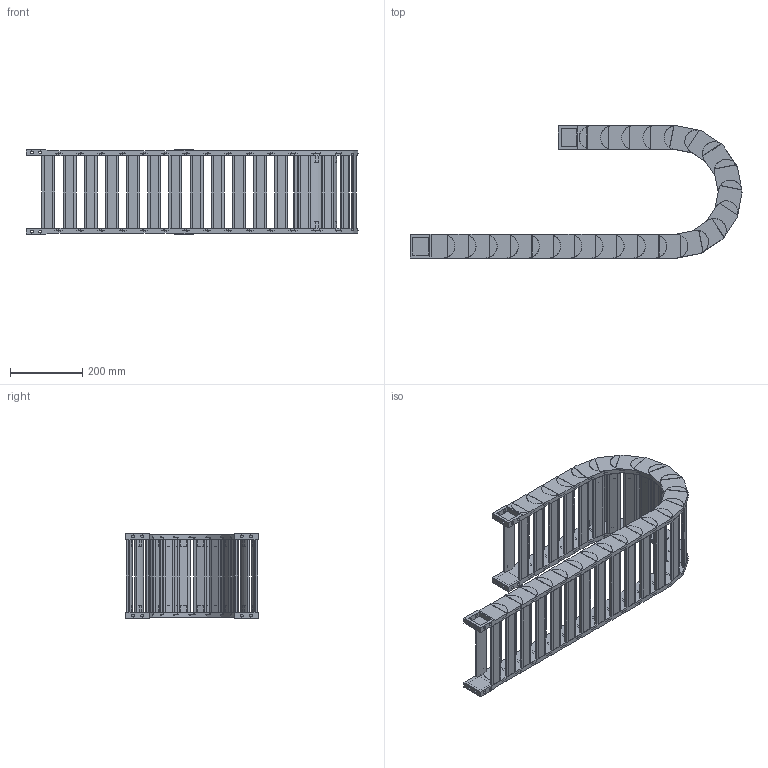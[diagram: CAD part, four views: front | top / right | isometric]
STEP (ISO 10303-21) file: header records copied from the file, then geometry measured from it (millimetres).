
FILE_DESCRIPTION((''),'2;1');
FILE_NAME('HD45-R150-ZPT_ASM','2022-06-20T20:37:28',('admin'),(''),'CREO PARAMETRIC BY PTC INC, 2021164','CREO PARAMETRIC BY PTC INC, 2021164','');
FILE_SCHEMA(('CONFIG_CONTROL_DESIGN','GEOMETRIC_VALIDATION_PROPERTIES_MIM'));
Length unit declared in the file: millimetre
Products named in the file (6): HD45-585; 45-500001; HD45_ASM; H45-T1-G; H45-T2-G; HD45-R150-ZPT_ASM
Assembly tree (29 placements, depth 3):
  HD45-R150-ZPT_ASM
    HD45_ASM  x23
      HD45-585
      45-500001
    H45-T1-G
    H45-T2-G
    45-500001  x2
Bounding box: 916.94 x 365 x 233.5 mm (x, y, z)
Volume: 5728600.2 mm3; surface area: 1870736 mm2
Topology: 100 solids, 100 shells, 1942 faces, 5198 edges, 3560 vertices
Faces by surface type: plane 1276, cylinder 666
Entity records: 8666 total; most frequent: CARTESIAN_POINT 1398, DIRECTION 1388, ORIENTED_EDGE 1276, EDGE_CURVE 638, AXIS2_PLACEMENT_3D 483, VERTEX_POINT 432, VECTOR 422, LINE 422
